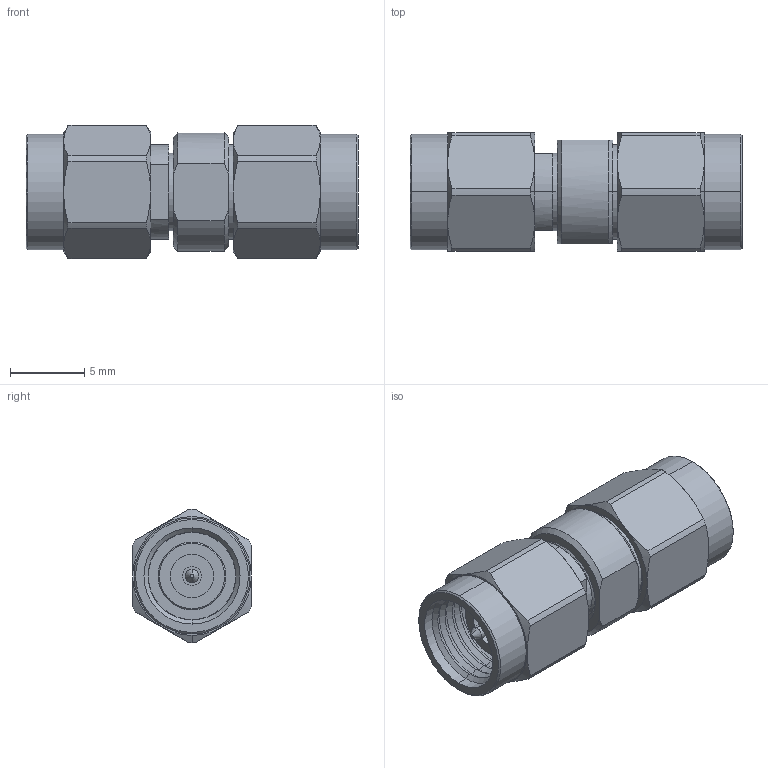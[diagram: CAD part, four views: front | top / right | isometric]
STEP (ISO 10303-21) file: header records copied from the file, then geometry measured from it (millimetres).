
FILE_DESCRIPTION (( 'STEP AP203' ), '1' );
FILE_NAME ('7927000K001-800st.STEP', '2020-10-20T17:12:22', ( '' ), ( '' ), 'SwSTEP 2.0', 'SolidWorks 2019', '' );
FILE_SCHEMA (( 'CONFIG_CONTROL_DESIGN' ));
Length unit declared in the file: inch
Products named in the file (1): 7927000K001-800st
Bounding box: 22.37 x 8 x 9 mm (x, y, z)
Volume: 831.6 mm3; surface area: 1198.5 mm2
Topology: 1 solids, 1 shells, 193 faces, 422 edges, 251 vertices
Faces by surface type: cone 96, cylinder 55, plane 42
Entity records: 5782 total; most frequent: CARTESIAN_POINT 1419, DIRECTION 969, ORIENTED_EDGE 844, EDGE_CURVE 422, AXIS2_PLACEMENT_3D 409, VERTEX_POINT 251, CIRCLE 215, EDGE_LOOP 213
